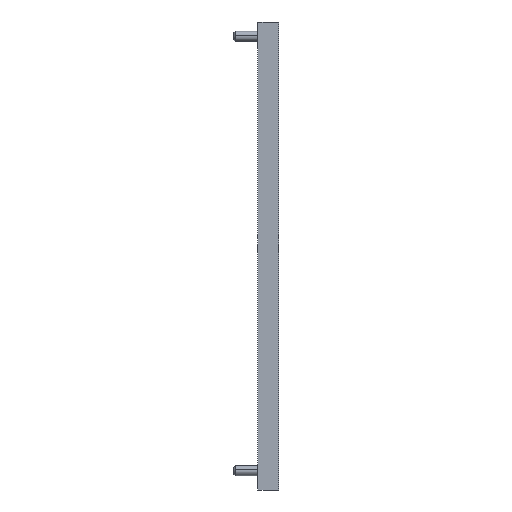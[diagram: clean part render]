
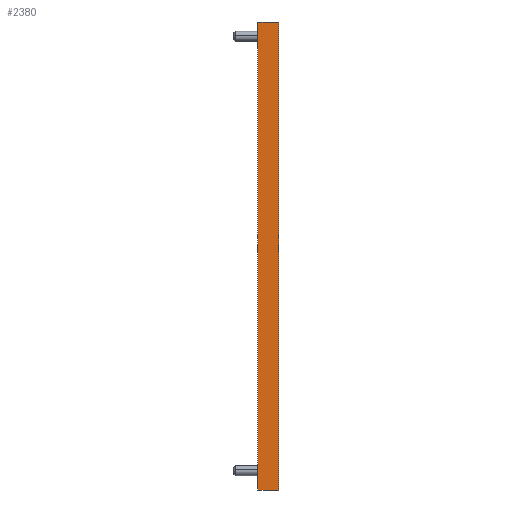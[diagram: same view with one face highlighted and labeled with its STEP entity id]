
A CAD part, left-side view. The second image highlights one B-rep face of the part: STEP entity #2380.
In plain terms, the highlighted planar face has unit normal (-1, 0, 0).
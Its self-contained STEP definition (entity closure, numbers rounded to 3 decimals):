
#35 = VECTOR ( 'NONE', #333, 1000. ) ;
#81 = LINE ( 'NONE', #1280, #3247 ) ;
#202 = DIRECTION ( 'NONE',  ( 0., 0., 1. ) ) ;
#230 = ORIENTED_EDGE ( 'NONE', *, *, #376, .T. ) ;
#270 = ORIENTED_EDGE ( 'NONE', *, *, #2048, .T. ) ;
#333 = DIRECTION ( 'NONE',  ( 0., -1., 0. ) ) ;
#360 = DIRECTION ( 'NONE',  ( -1., 0., 0. ) ) ;
#370 = VERTEX_POINT ( 'NONE', #1887 ) ;
#376 = EDGE_CURVE ( 'NONE', #2906, #667, #2400, .T. ) ;
#402 = ORIENTED_EDGE ( 'NONE', *, *, #1213, .T. ) ;
#416 = EDGE_CURVE ( 'NONE', #1832, #1964, #872, .T. ) ;
#504 = LINE ( 'NONE', #2493, #2631 ) ;
#510 = CARTESIAN_POINT ( 'NONE',  ( -8., 12.5, 279. ) ) ;
#559 = EDGE_CURVE ( 'NONE', #370, #1913, #1921, .T. ) ;
#621 = PLANE ( 'NONE',  #2732 ) ;
#667 = VERTEX_POINT ( 'NONE', #3024 ) ;
#672 = EDGE_LOOP ( 'NONE', ( #1082, #402, #2689, #270, #2762, #811, #230, #1853 ) ) ;
#769 = DIRECTION ( 'NONE',  ( 0., 1., 0. ) ) ;
#811 = ORIENTED_EDGE ( 'NONE', *, *, #1116, .T. ) ;
#814 = DIRECTION ( 'NONE',  ( 0., -1., 0. ) ) ;
#845 = LINE ( 'NONE', #2593, #35 ) ;
#872 = LINE ( 'NONE', #3115, #2701 ) ;
#928 = DIRECTION ( 'NONE',  ( 0., -1., 0. ) ) ;
#1082 = ORIENTED_EDGE ( 'NONE', *, *, #559, .F. ) ;
#1084 = DIRECTION ( 'NONE',  ( 0., 0., 1. ) ) ;
#1116 = EDGE_CURVE ( 'NONE', #1964, #2906, #3035, .T. ) ;
#1211 = CARTESIAN_POINT ( 'NONE',  ( -8., 0., 0. ) ) ;
#1213 = EDGE_CURVE ( 'NONE', #370, #2506, #3194, .T. ) ;
#1280 = CARTESIAN_POINT ( 'NONE',  ( -8., 12.5, 279. ) ) ;
#1348 = CARTESIAN_POINT ( 'NONE',  ( -8., 0., 279. ) ) ;
#1421 = CARTESIAN_POINT ( 'NONE',  ( -8., 0., 0. ) ) ;
#1584 = EDGE_CURVE ( 'NONE', #1913, #667, #81, .T. ) ;
#1666 = CARTESIAN_POINT ( 'NONE',  ( -8., 9.3, 0. ) ) ;
#1832 = VERTEX_POINT ( 'NONE', #1211 ) ;
#1853 = ORIENTED_EDGE ( 'NONE', *, *, #1584, .F. ) ;
#1857 = VECTOR ( 'NONE', #2664, 1000. ) ;
#1887 = CARTESIAN_POINT ( 'NONE',  ( -8., 12.5, 0. ) ) ;
#1913 = VERTEX_POINT ( 'NONE', #510 ) ;
#1921 = LINE ( 'NONE', #2466, #2022 ) ;
#1964 = VERTEX_POINT ( 'NONE', #1348 ) ;
#2022 = VECTOR ( 'NONE', #202, 1000. ) ;
#2048 = EDGE_CURVE ( 'NONE', #2766, #1832, #845, .T. ) ;
#2144 = DIRECTION ( 'NONE',  ( 0., 0., 1. ) ) ;
#2353 = CARTESIAN_POINT ( 'NONE',  ( -8., 0., 279. ) ) ;
#2356 = CARTESIAN_POINT ( 'NONE',  ( -8., 3.2, 0. ) ) ;
#2380 = ADVANCED_FACE ( 'NONE', ( #2648 ), #621, .T. ) ;
#2400 = LINE ( 'NONE', #2353, #2912 ) ;
#2466 = CARTESIAN_POINT ( 'NONE',  ( -8., 12.5, 279. ) ) ;
#2493 = CARTESIAN_POINT ( 'NONE',  ( -8., 0., 0. ) ) ;
#2506 = VERTEX_POINT ( 'NONE', #1666 ) ;
#2593 = CARTESIAN_POINT ( 'NONE',  ( -8., 0., 0. ) ) ;
#2631 = VECTOR ( 'NONE', #928, 1000. ) ;
#2648 = FACE_OUTER_BOUND ( 'NONE', #672, .T. ) ;
#2664 = DIRECTION ( 'NONE',  ( 0., -1., 0. ) ) ;
#2689 = ORIENTED_EDGE ( 'NONE', *, *, #3090, .T. ) ;
#2701 = VECTOR ( 'NONE', #2144, 1000. ) ;
#2732 = AXIS2_PLACEMENT_3D ( 'NONE', #2855, #360, #1084 ) ;
#2762 = ORIENTED_EDGE ( 'NONE', *, *, #416, .T. ) ;
#2766 = VERTEX_POINT ( 'NONE', #2356 ) ;
#2784 = CARTESIAN_POINT ( 'NONE',  ( -8., 3.2, 279. ) ) ;
#2855 = CARTESIAN_POINT ( 'NONE',  ( -8., 0., 279. ) ) ;
#2877 = DIRECTION ( 'NONE',  ( 0., 1., 0. ) ) ;
#2906 = VERTEX_POINT ( 'NONE', #2784 ) ;
#2912 = VECTOR ( 'NONE', #2877, 1000. ) ;
#3024 = CARTESIAN_POINT ( 'NONE',  ( -8., 9.3, 279. ) ) ;
#3035 = LINE ( 'NONE', #3252, #3187 ) ;
#3090 = EDGE_CURVE ( 'NONE', #2506, #2766, #504, .T. ) ;
#3115 = CARTESIAN_POINT ( 'NONE',  ( -8., 0., 279. ) ) ;
#3187 = VECTOR ( 'NONE', #769, 1000. ) ;
#3194 = LINE ( 'NONE', #1421, #1857 ) ;
#3247 = VECTOR ( 'NONE', #814, 1000. ) ;
#3252 = CARTESIAN_POINT ( 'NONE',  ( -8., 0., 279. ) ) ;
